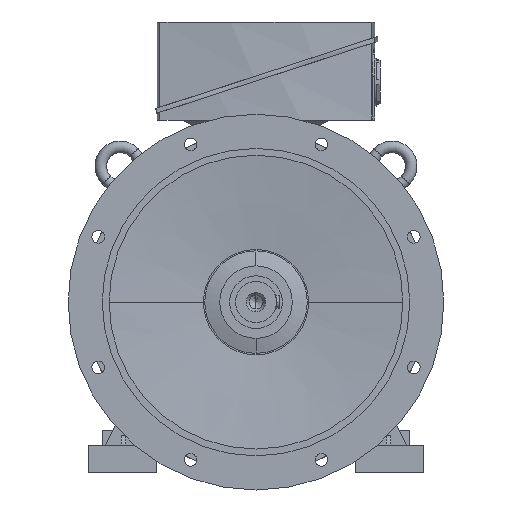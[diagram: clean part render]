
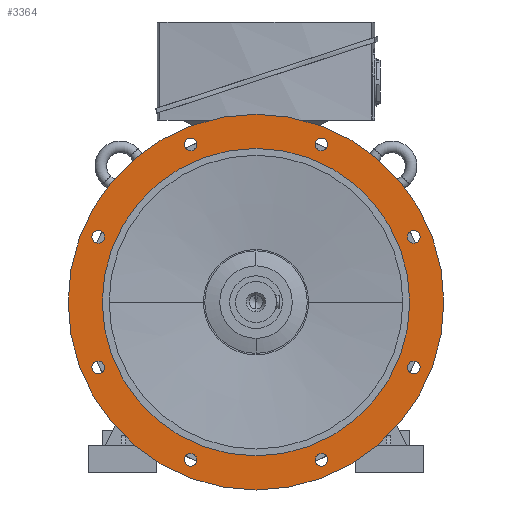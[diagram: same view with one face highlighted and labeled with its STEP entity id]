
A CAD part, left-side view. The second image highlights one B-rep face of the part: STEP entity #3364.
In plain terms, the highlighted planar face has unit normal (-1, 0, 0).
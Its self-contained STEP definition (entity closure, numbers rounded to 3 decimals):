
#3364=ADVANCED_FACE('',(#6774,#6775,#6776,#6777,#6778,#6779,#6780,#6781,#6782,#6783),#6784,.T.);
#6774=FACE_BOUND('',#10207,.T.);
#6775=FACE_BOUND('',#10208,.T.);
#6776=FACE_BOUND('',#10209,.T.);
#6777=FACE_BOUND('',#10210,.T.);
#6778=FACE_BOUND('',#10211,.T.);
#6779=FACE_BOUND('',#10212,.T.);
#6780=FACE_BOUND('',#10213,.T.);
#6781=FACE_BOUND('',#10214,.T.);
#6782=FACE_OUTER_BOUND('',#10215,.T.);
#6783=FACE_BOUND('',#10216,.T.);
#6784=PLANE('',#10217);
#10207=EDGE_LOOP('',(#20861,#20862));
#10208=EDGE_LOOP('',(#20863,#20864));
#10209=EDGE_LOOP('',(#20865,#20866));
#10210=EDGE_LOOP('',(#20867,#20868));
#10211=EDGE_LOOP('',(#20869,#20870));
#10212=EDGE_LOOP('',(#20871,#20872));
#10213=EDGE_LOOP('',(#20873,#20874));
#10214=EDGE_LOOP('',(#20875,#20876));
#10215=EDGE_LOOP('',(#20877,#20878));
#10216=EDGE_LOOP('',(#20879,#20880));
#10217=AXIS2_PLACEMENT_3D('',#20881,#20882,#20883);
#20861=ORIENTED_EDGE('',*,*,#25060,.T.);
#20862=ORIENTED_EDGE('',*,*,#21161,.T.);
#20863=ORIENTED_EDGE('',*,*,#25063,.T.);
#20864=ORIENTED_EDGE('',*,*,#21156,.T.);
#20865=ORIENTED_EDGE('',*,*,#25066,.T.);
#20866=ORIENTED_EDGE('',*,*,#21151,.T.);
#20867=ORIENTED_EDGE('',*,*,#25069,.T.);
#20868=ORIENTED_EDGE('',*,*,#21146,.T.);
#20869=ORIENTED_EDGE('',*,*,#25072,.T.);
#20870=ORIENTED_EDGE('',*,*,#21141,.T.);
#20871=ORIENTED_EDGE('',*,*,#25075,.T.);
#20872=ORIENTED_EDGE('',*,*,#21136,.T.);
#20873=ORIENTED_EDGE('',*,*,#25078,.T.);
#20874=ORIENTED_EDGE('',*,*,#21131,.T.);
#20875=ORIENTED_EDGE('',*,*,#25081,.T.);
#20876=ORIENTED_EDGE('',*,*,#21126,.T.);
#20877=ORIENTED_EDGE('',*,*,#21090,.F.);
#20878=ORIENTED_EDGE('',*,*,#25149,.F.);
#20879=ORIENTED_EDGE('',*,*,#21097,.T.);
#20880=ORIENTED_EDGE('',*,*,#25147,.T.);
#20881=CARTESIAN_POINT('',(-100.0,250.0,0.0));
#20882=DIRECTION('',(-1.0,0.0,0.0));
#20883=DIRECTION('',(0.0,-1.0,0.0));
#21090=EDGE_CURVE('',#25405,#25408,#25409,.T.);
#21097=EDGE_CURVE('',#25415,#25419,#25421,.T.);
#21126=EDGE_CURVE('',#25470,#25467,#25471,.T.);
#21131=EDGE_CURVE('',#25479,#25476,#25480,.T.);
#21136=EDGE_CURVE('',#25488,#25485,#25489,.T.);
#21141=EDGE_CURVE('',#25497,#25494,#25498,.T.);
#21146=EDGE_CURVE('',#25506,#25503,#25507,.T.);
#21151=EDGE_CURVE('',#25515,#25512,#25516,.T.);
#21156=EDGE_CURVE('',#25524,#25521,#25525,.T.);
#21161=EDGE_CURVE('',#25533,#25530,#25534,.T.);
#25060=EDGE_CURVE('',#25530,#25533,#31355,.T.);
#25063=EDGE_CURVE('',#25521,#25524,#31358,.T.);
#25066=EDGE_CURVE('',#25512,#25515,#31361,.T.);
#25069=EDGE_CURVE('',#25503,#25506,#31364,.T.);
#25072=EDGE_CURVE('',#25494,#25497,#31367,.T.);
#25075=EDGE_CURVE('',#25485,#25488,#31370,.T.);
#25078=EDGE_CURVE('',#25476,#25479,#31373,.T.);
#25081=EDGE_CURVE('',#25467,#25470,#31376,.T.);
#25147=EDGE_CURVE('',#25419,#25415,#31448,.T.);
#25149=EDGE_CURVE('',#25408,#25405,#31450,.T.);
#25405=VERTEX_POINT('',#31968);
#25408=VERTEX_POINT('',#31972);
#25409=CIRCLE('',#31973,275.0);
#25415=VERTEX_POINT('',#31980);
#25419=VERTEX_POINT('',#31985);
#25421=CIRCLE('',#31988,225.0);
#25467=VERTEX_POINT('',#32042);
#25470=VERTEX_POINT('',#32046);
#25471=CIRCLE('',#32047,9.25);
#25476=VERTEX_POINT('',#32053);
#25479=VERTEX_POINT('',#32057);
#25480=CIRCLE('',#32058,9.25);
#25485=VERTEX_POINT('',#32064);
#25488=VERTEX_POINT('',#32068);
#25489=CIRCLE('',#32069,9.25);
#25494=VERTEX_POINT('',#32075);
#25497=VERTEX_POINT('',#32079);
#25498=CIRCLE('',#32080,9.25);
#25503=VERTEX_POINT('',#32086);
#25506=VERTEX_POINT('',#32090);
#25507=CIRCLE('',#32091,9.25);
#25512=VERTEX_POINT('',#32097);
#25515=VERTEX_POINT('',#32101);
#25516=CIRCLE('',#32102,9.25);
#25521=VERTEX_POINT('',#32108);
#25524=VERTEX_POINT('',#32112);
#25525=CIRCLE('',#32113,9.25);
#25530=VERTEX_POINT('',#32119);
#25533=VERTEX_POINT('',#32123);
#25534=CIRCLE('',#32124,9.25);
#31355=CIRCLE('',#53091,9.25);
#31358=CIRCLE('',#53094,9.25);
#31361=CIRCLE('',#53097,9.25);
#31364=CIRCLE('',#53100,9.25);
#31367=CIRCLE('',#53103,9.25);
#31370=CIRCLE('',#53106,9.25);
#31373=CIRCLE('',#53109,9.25);
#31376=CIRCLE('',#53112,9.25);
#31448=CIRCLE('',#53209,225.0);
#31450=CIRCLE('',#53211,275.0);
#31968=CARTESIAN_POINT('',(-100.0,275.0,0.0));
#31972=CARTESIAN_POINT('',(-100.0,-275.0,0.));
#31973=AXIS2_PLACEMENT_3D('',#53361,#53362,#53363);
#31980=CARTESIAN_POINT('',(-100.0,225.0,0.0));
#31985=CARTESIAN_POINT('',(-100.0,-225.0,0.));
#31988=AXIS2_PLACEMENT_3D('',#53373,#53374,#53375);
#32042=CARTESIAN_POINT('',(-100.0,-99.211,239.516));
#32046=CARTESIAN_POINT('',(-100.0,-92.131,222.424));
#32047=AXIS2_PLACEMENT_3D('',#53424,#53425,#53426);
#32053=CARTESIAN_POINT('',(-100.0,99.211,239.516));
#32057=CARTESIAN_POINT('',(-100.0,92.131,222.424));
#32058=AXIS2_PLACEMENT_3D('',#53432,#53433,#53434);
#32064=CARTESIAN_POINT('',(-100.0,239.516,99.211));
#32068=CARTESIAN_POINT('',(-100.0,222.424,92.131));
#32069=AXIS2_PLACEMENT_3D('',#53440,#53441,#53442);
#32075=CARTESIAN_POINT('',(-100.0,239.516,-99.211));
#32079=CARTESIAN_POINT('',(-100.0,222.424,-92.131));
#32080=AXIS2_PLACEMENT_3D('',#53448,#53449,#53450);
#32086=CARTESIAN_POINT('',(-100.0,99.211,-239.516));
#32090=CARTESIAN_POINT('',(-100.0,92.131,-222.424));
#32091=AXIS2_PLACEMENT_3D('',#53456,#53457,#53458);
#32097=CARTESIAN_POINT('',(-100.0,-99.211,-239.516));
#32101=CARTESIAN_POINT('',(-100.0,-92.131,-222.424));
#32102=AXIS2_PLACEMENT_3D('',#53464,#53465,#53466);
#32108=CARTESIAN_POINT('',(-100.0,-239.516,-99.211));
#32112=CARTESIAN_POINT('',(-100.0,-222.424,-92.131));
#32113=AXIS2_PLACEMENT_3D('',#53472,#53473,#53474);
#32119=CARTESIAN_POINT('',(-100.0,-239.516,99.211));
#32123=CARTESIAN_POINT('',(-100.0,-222.424,92.131));
#32124=AXIS2_PLACEMENT_3D('',#53480,#53481,#53482);
#53091=AXIS2_PLACEMENT_3D('',#56951,#56952,#56953);
#53094=AXIS2_PLACEMENT_3D('',#56957,#56958,#56959);
#53097=AXIS2_PLACEMENT_3D('',#56963,#56964,#56965);
#53100=AXIS2_PLACEMENT_3D('',#56969,#56970,#56971);
#53103=AXIS2_PLACEMENT_3D('',#56975,#56976,#56977);
#53106=AXIS2_PLACEMENT_3D('',#56981,#56982,#56983);
#53109=AXIS2_PLACEMENT_3D('',#56987,#56988,#56989);
#53112=AXIS2_PLACEMENT_3D('',#56993,#56994,#56995);
#53209=AXIS2_PLACEMENT_3D('',#57045,#57046,#57047);
#53211=AXIS2_PLACEMENT_3D('',#57048,#57049,#57050);
#53361=CARTESIAN_POINT('',(-100.0,0.0,0.0));
#53362=DIRECTION('',(1.0,0.0,0.0));
#53363=DIRECTION('',(0.0,1.0,0.0));
#53373=CARTESIAN_POINT('',(-100.0,0.0,0.0));
#53374=DIRECTION('',(1.0,0.0,0.0));
#53375=DIRECTION('',(0.0,1.0,0.0));
#53424=CARTESIAN_POINT('',(-100.0,-95.671,230.97));
#53425=DIRECTION('',(1.0,0.0,-0.0));
#53426=DIRECTION('',(0.0,-0.383,0.924));
#53432=CARTESIAN_POINT('',(-100.0,95.671,230.97));
#53433=DIRECTION('',(1.0,0.0,-0.0));
#53434=DIRECTION('',(0.0,0.383,0.924));
#53440=CARTESIAN_POINT('',(-100.0,230.97,95.671));
#53441=DIRECTION('',(1.0,0.0,-0.0));
#53442=DIRECTION('',(0.0,0.924,0.383));
#53448=CARTESIAN_POINT('',(-100.0,230.97,-95.671));
#53449=DIRECTION('',(1.0,-0.0,0.0));
#53450=DIRECTION('',(0.0,0.924,-0.383));
#53456=CARTESIAN_POINT('',(-100.0,95.671,-230.97));
#53457=DIRECTION('',(1.0,-0.0,0.0));
#53458=DIRECTION('',(0.0,0.383,-0.924));
#53464=CARTESIAN_POINT('',(-100.0,-95.671,-230.97));
#53465=DIRECTION('',(1.0,0.0,0.0));
#53466=DIRECTION('',(0.0,-0.383,-0.924));
#53472=CARTESIAN_POINT('',(-100.0,-230.97,-95.671));
#53473=DIRECTION('',(1.0,0.0,0.0));
#53474=DIRECTION('',(0.0,-0.924,-0.383));
#53480=CARTESIAN_POINT('',(-100.0,-230.97,95.671));
#53481=DIRECTION('',(1.0,0.0,-0.0));
#53482=DIRECTION('',(0.0,-0.924,0.383));
#56951=CARTESIAN_POINT('',(-100.0,-230.97,95.671));
#56952=DIRECTION('',(1.0,0.0,-0.0));
#56953=DIRECTION('',(0.0,-0.924,0.383));
#56957=CARTESIAN_POINT('',(-100.0,-230.97,-95.671));
#56958=DIRECTION('',(1.0,0.0,0.0));
#56959=DIRECTION('',(0.0,-0.924,-0.383));
#56963=CARTESIAN_POINT('',(-100.0,-95.671,-230.97));
#56964=DIRECTION('',(1.0,0.0,0.0));
#56965=DIRECTION('',(0.0,-0.383,-0.924));
#56969=CARTESIAN_POINT('',(-100.0,95.671,-230.97));
#56970=DIRECTION('',(1.0,-0.0,0.0));
#56971=DIRECTION('',(0.0,0.383,-0.924));
#56975=CARTESIAN_POINT('',(-100.0,230.97,-95.671));
#56976=DIRECTION('',(1.0,-0.0,0.0));
#56977=DIRECTION('',(0.0,0.924,-0.383));
#56981=CARTESIAN_POINT('',(-100.0,230.97,95.671));
#56982=DIRECTION('',(1.0,0.0,-0.0));
#56983=DIRECTION('',(0.0,0.924,0.383));
#56987=CARTESIAN_POINT('',(-100.0,95.671,230.97));
#56988=DIRECTION('',(1.0,0.0,-0.0));
#56989=DIRECTION('',(0.0,0.383,0.924));
#56993=CARTESIAN_POINT('',(-100.0,-95.671,230.97));
#56994=DIRECTION('',(1.0,0.0,-0.0));
#56995=DIRECTION('',(0.0,-0.383,0.924));
#57045=CARTESIAN_POINT('',(-100.0,0.0,0.0));
#57046=DIRECTION('',(1.0,0.0,0.0));
#57047=DIRECTION('',(0.0,1.0,0.0));
#57048=CARTESIAN_POINT('',(-100.0,0.0,0.0));
#57049=DIRECTION('',(1.0,0.0,0.0));
#57050=DIRECTION('',(0.0,1.0,0.0));
